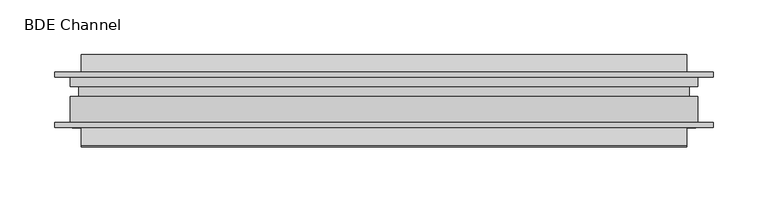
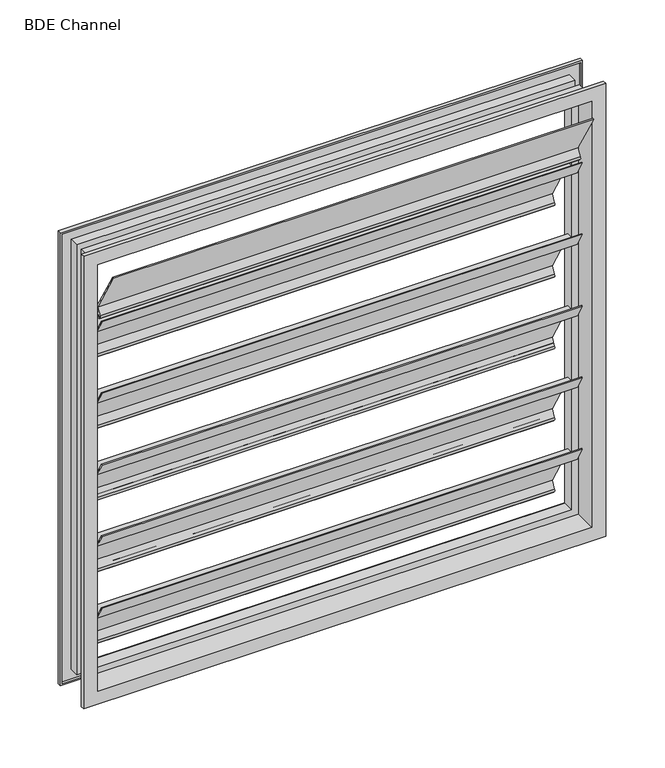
"""IFC4 building model written with IfcOpenShell, lengths in millimetres: air terminal geometry, DC_Holyoake_BackDraftDamper_BDE_Channel_14 : BDE Channel."""

from ifc_helpers import new_model, si_unit, point, frame, frame_2d, origin, place, context, project, spatial, polyline, circle_curve, trimmed, segment, composite_curve, outline, extrude, faceted_brep, source, transform, mapped, element, save


def bde_channel_63ecb905(model_context):
    return source(origin(), model_context, "Body", "SolidModel", [
        extrude(outline(composite_curve([segment(polyline([(115.85, 884.7833541), (112.8088922, 879.516001)]), True, "CONTINUOUS"), segment(trimmed(circle_curve(frame_2d((113.696125, 879.0523307)), 1.0010855), [point((112.8088922, 879.516001))], [point((113.1939638, 878.1863018))], True, "CARTESIAN"), True, "CONTINUOUS"), segment(trimmed(circle_curve(frame_2d((112.2933785, 875.22)), 3.1), [point((113.1939638, 878.1863018))], [point((111.1220582, 872.3498069))], False, "CARTESIAN"), True, "CONTINUOUS"), segment(polyline([(111.1220582, 872.3498069), (111.6510416, 873.6460231)]), True, "CONTINUOUS"), segment(trimmed(circle_curve(frame_2d((112.2933785, 875.22)), 1.7), [point((111.6510416, 873.6460231))], [point((110.7120974, 874.5958606))], True, "CARTESIAN"), True, "CONTINUOUS"), segment(polyline([(110.7120974, 874.5958606), (109.6086998, 873.67)]), True, "CONTINUOUS"), segment(trimmed(circle_curve(frame_2d((112.2933785, 875.22)), 3.1), [point((109.6086998, 873.67))], [point((109.5892674, 876.7358439))], False, "CARTESIAN"), True, "CONTINUOUS"), segment(polyline([(109.5892674, 876.7358439), (114.2334192, 884.7817623), (81.8366454, 940.8930288), (64.4006673, 940.8930288), (53.86, 959.15), (55.4765808, 959.15), (65.2089576, 942.2930288), (82.6449358, 942.2930288), (115.85, 884.7833541)]), True, "CONTINUOUS")], self_intersect=False)), frame((-151.0, 0.0, 0.0), z_axis=(1.0, 0.0, 0.0), x_axis=(0.0, 1.0, 0.0)), (0.0, 0.0, 1.0), 552.0),
        extrude(outline(composite_curve([segment(polyline([(64.35, 971.8133541), (61.3088922, 966.546001)]), True, "CONTINUOUS"), segment(trimmed(circle_curve(frame_2d((62.196125, 966.0823307)), 1.0010855), [point((61.3088922, 966.546001))], [point((61.6939638, 965.2163018))], True, "CARTESIAN"), True, "CONTINUOUS"), segment(trimmed(circle_curve(frame_2d((60.7933785, 962.25)), 3.1), [point((61.6939638, 965.2163018))], [point((59.6220582, 959.3798069))], False, "CARTESIAN"), True, "CONTINUOUS"), segment(polyline([(59.6220582, 959.3798069), (60.1510416, 960.6760231)]), True, "CONTINUOUS"), segment(trimmed(circle_curve(frame_2d((60.7933785, 962.25)), 1.7), [point((60.1510416, 960.6760231))], [point((59.2120974, 961.6258606))], True, "CARTESIAN"), True, "CONTINUOUS"), segment(polyline([(59.2120974, 961.6258606), (58.1086998, 960.7)]), True, "CONTINUOUS"), segment(trimmed(circle_curve(frame_2d((60.7933785, 962.25)), 3.1), [point((58.1086998, 960.7))], [point((58.0892674, 963.7658439))], False, "CARTESIAN"), True, "CONTINUOUS"), segment(polyline([(58.0892674, 963.7658439), (62.7334192, 971.8117623), (31.4469381, 1026.0), (33.0635935, 1026.0), (64.35, 971.8133541)]), True, "CONTINUOUS")], self_intersect=False)), frame((-151.0, 0.0, 0.0), z_axis=(1.0, 0.0, 0.0), x_axis=(0.0, 1.0, 0.0)), (0.0, 0.0, 1.0), 552.0),
        extrude(outline(composite_curve([segment(polyline([(115.85, 797.7533541), (112.8088922, 792.486001)]), True, "CONTINUOUS"), segment(trimmed(circle_curve(frame_2d((113.696125, 792.0223307)), 1.0010855), [point((112.8088922, 792.486001))], [point((113.1939638, 791.1563018))], True, "CARTESIAN"), True, "CONTINUOUS"), segment(trimmed(circle_curve(frame_2d((112.2933785, 788.19)), 3.1), [point((113.1939638, 791.1563018))], [point((111.1220582, 785.3198069))], False, "CARTESIAN"), True, "CONTINUOUS"), segment(polyline([(111.1220582, 785.3198069), (111.6510416, 786.6160231)]), True, "CONTINUOUS"), segment(trimmed(circle_curve(frame_2d((112.2933785, 788.19)), 1.7), [point((111.6510416, 786.6160231))], [point((110.7120974, 787.5658606))], True, "CARTESIAN"), True, "CONTINUOUS"), segment(polyline([(110.7120974, 787.5658606), (109.6086998, 786.64)]), True, "CONTINUOUS"), segment(trimmed(circle_curve(frame_2d((112.2933785, 788.19)), 3.1), [point((109.6086998, 786.64))], [point((109.5892674, 789.7058439))], False, "CARTESIAN"), True, "CONTINUOUS"), segment(polyline([(109.5892674, 789.7058439), (114.2334192, 797.7517623), (81.8366454, 853.8630288), (64.4006673, 853.8630288), (53.86, 872.12), (55.4765808, 872.12), (65.2089576, 855.2630288), (82.6449358, 855.2630288), (115.85, 797.7533541)]), True, "CONTINUOUS")], self_intersect=False)), frame((-151.0, 0.0, 0.0), z_axis=(1.0, 0.0, 0.0), x_axis=(0.0, 1.0, 0.0)), (0.0, 0.0, 1.0), 552.0),
        extrude(outline(composite_curve([segment(polyline([(115.85, 710.7233541), (112.8088922, 705.456001)]), True, "CONTINUOUS"), segment(trimmed(circle_curve(frame_2d((113.696125, 704.9923307)), 1.0010855), [point((112.8088922, 705.456001))], [point((113.1939638, 704.1263018))], True, "CARTESIAN"), True, "CONTINUOUS"), segment(trimmed(circle_curve(frame_2d((112.2933785, 701.16)), 3.1), [point((113.1939638, 704.1263018))], [point((111.1220582, 698.2898069))], False, "CARTESIAN"), True, "CONTINUOUS"), segment(polyline([(111.1220582, 698.2898069), (111.6510416, 699.5860231)]), True, "CONTINUOUS"), segment(trimmed(circle_curve(frame_2d((112.2933785, 701.16)), 1.7), [point((111.6510416, 699.5860231))], [point((110.7120974, 700.5358606))], True, "CARTESIAN"), True, "CONTINUOUS"), segment(polyline([(110.7120974, 700.5358606), (109.6086998, 699.61)]), True, "CONTINUOUS"), segment(trimmed(circle_curve(frame_2d((112.2933785, 701.16)), 3.1), [point((109.6086998, 699.61))], [point((109.5892674, 702.6758439))], False, "CARTESIAN"), True, "CONTINUOUS"), segment(polyline([(109.5892674, 702.6758439), (114.2334192, 710.7217623), (81.8366454, 766.8330288), (64.4006673, 766.8330288), (53.86, 785.09), (55.4765808, 785.09), (65.2089576, 768.2330288), (82.6449358, 768.2330288), (115.85, 710.7233541)]), True, "CONTINUOUS")], self_intersect=False)), frame((-151.0, 0.0, 0.0), z_axis=(1.0, 0.0, 0.0), x_axis=(0.0, 1.0, 0.0)), (0.0, 0.0, 1.0), 552.0),
        extrude(outline(composite_curve([segment(polyline([(115.85, 623.6933541), (112.8088922, 618.426001)]), True, "CONTINUOUS"), segment(trimmed(circle_curve(frame_2d((113.696125, 617.9623307)), 1.0010855), [point((112.8088922, 618.426001))], [point((113.1939638, 617.0963018))], True, "CARTESIAN"), True, "CONTINUOUS"), segment(trimmed(circle_curve(frame_2d((112.2933785, 614.13)), 3.1), [point((113.1939638, 617.0963018))], [point((111.1220582, 611.2598069))], False, "CARTESIAN"), True, "CONTINUOUS"), segment(polyline([(111.1220582, 611.2598069), (111.6510416, 612.5560231)]), True, "CONTINUOUS"), segment(trimmed(circle_curve(frame_2d((112.2933785, 614.13)), 1.7), [point((111.6510416, 612.5560231))], [point((110.7120974, 613.5058606))], True, "CARTESIAN"), True, "CONTINUOUS"), segment(polyline([(110.7120974, 613.5058606), (109.6086998, 612.58)]), True, "CONTINUOUS"), segment(trimmed(circle_curve(frame_2d((112.2933785, 614.13)), 3.1), [point((109.6086998, 612.58))], [point((109.5892674, 615.6458439))], False, "CARTESIAN"), True, "CONTINUOUS"), segment(polyline([(109.5892674, 615.6458439), (114.2334192, 623.6917623), (81.8366454, 679.8030288), (64.4006673, 679.8030288), (53.86, 698.06), (55.4765808, 698.06), (65.2089576, 681.2030288), (82.6449358, 681.2030288), (115.85, 623.6933541)]), True, "CONTINUOUS")], self_intersect=False)), frame((-151.0, 0.0, 0.0), z_axis=(1.0, 0.0, 0.0), x_axis=(0.0, 1.0, 0.0)), (0.0, 0.0, 1.0), 552.0),
        extrude(outline(composite_curve([segment(polyline([(115.85, 536.6633541), (112.8088922, 531.396001)]), True, "CONTINUOUS"), segment(trimmed(circle_curve(frame_2d((113.696125, 530.9323307)), 1.0010855), [point((112.8088922, 531.396001))], [point((113.1939638, 530.0663018))], True, "CARTESIAN"), True, "CONTINUOUS"), segment(trimmed(circle_curve(frame_2d((112.2933785, 527.1)), 3.1), [point((113.1939638, 530.0663018))], [point((111.1220582, 524.2298069))], False, "CARTESIAN"), True, "CONTINUOUS"), segment(polyline([(111.1220582, 524.2298069), (111.6510416, 525.5260231)]), True, "CONTINUOUS"), segment(trimmed(circle_curve(frame_2d((112.2933785, 527.1)), 1.7), [point((111.6510416, 525.5260231))], [point((110.7120974, 526.4758606))], True, "CARTESIAN"), True, "CONTINUOUS"), segment(polyline([(110.7120974, 526.4758606), (109.6086998, 525.55)]), True, "CONTINUOUS"), segment(trimmed(circle_curve(frame_2d((112.2933785, 527.1)), 3.1), [point((109.6086998, 525.55))], [point((109.5892674, 528.6158439))], False, "CARTESIAN"), True, "CONTINUOUS"), segment(polyline([(109.5892674, 528.6158439), (114.2334192, 536.6617623), (81.8366454, 592.7730288), (64.4006673, 592.7730288), (53.86, 611.03), (55.4765808, 611.03), (65.2089576, 594.1730288), (82.6449358, 594.1730288), (115.85, 536.6633541)]), True, "CONTINUOUS")], self_intersect=False)), frame((-151.0, 0.0, 0.0), z_axis=(1.0, 0.0, 0.0), x_axis=(0.0, 1.0, 0.0)), (0.0, 0.0, 1.0), 552.0),
        faceted_brep([(401.0, 75.75, 524.0), (401.0, 89.0, 524.0), (-151.0, 89.0, 524.0), (-151.0, 75.75, 524.0), (409.0, 49.25, 516.0), (409.0, 75.75, 516.0), (-159.0, 75.75, 516.0), (-159.0, 49.25, 516.0), (425.0, 53.85, 500.0), (425.0, 49.25, 500.0), (-175.0, 49.25, 500.0), (-175.0, 53.85, 500.0), (422.9, 51.35, 502.1), (422.9, 53.85, 502.1), (-172.9, 53.85, 502.1), (-172.9, 51.35, 502.1), (411.1, 77.85, 513.9), (411.1, 51.35, 513.9), (-161.1, 51.35, 513.9), (-161.1, 77.85, 513.9), (403.1, 86.9, 521.9), (403.1, 77.85, 521.9), (-153.1, 77.85, 521.9), (-153.1, 86.9, 521.9), (411.1, 97.9, 513.9), (411.1, 86.9, 513.9), (-161.1, 86.9, 513.9), (-161.1, 97.9, 513.9), (422.9, 95.4, 502.1), (422.9, 97.9, 502.1), (-172.9, 97.9, 502.1), (-172.9, 95.4, 502.1), (425.0, 100.0, 500.0), (425.0, 95.4, 500.0), (-175.0, 95.4, 500.0), (-175.0, 100.0, 500.0), (409.0, 89.0, 516.0), (409.0, 100.0, 516.0), (-159.0, 100.0, 516.0), (-159.0, 89.0, 516.0), (-151.0, 89.0, 1026.0), (-151.0, 75.75, 1026.0), (-159.0, 75.75, 1034.0), (-159.0, 49.25, 1034.0), (-175.0, 49.25, 1050.0), (-175.0, 53.85, 1050.0), (-172.9, 53.85, 1047.9), (-172.9, 51.35, 1047.9), (-161.1, 51.35, 1036.1), (-161.1, 77.85, 1036.1), (-153.1, 77.85, 1028.1), (-153.1, 86.9, 1028.1), (-161.1, 86.9, 1036.1), (-161.1, 97.9, 1036.1), (-172.9, 97.9, 1047.9), (-172.9, 95.4, 1047.9), (-175.0, 95.4, 1050.0), (-175.0, 100.0, 1050.0), (-159.0, 100.0, 1034.0), (-159.0, 89.0, 1034.0), (401.0, 89.0, 1026.0), (401.0, 75.75, 1026.0), (409.0, 75.75, 1034.0), (409.0, 49.25, 1034.0), (425.0, 49.25, 1050.0), (425.0, 53.85, 1050.0), (422.9, 53.85, 1047.9), (422.9, 51.35, 1047.9), (411.1, 51.35, 1036.1), (411.1, 77.85, 1036.1), (403.1, 77.85, 1028.1), (403.1, 86.9, 1028.1), (411.1, 86.9, 1036.1), (411.1, 97.9, 1036.1), (422.9, 97.9, 1047.9), (422.9, 95.4, 1047.9), (425.0, 95.4, 1050.0), (425.0, 100.0, 1050.0), (409.0, 100.0, 1034.0), (409.0, 89.0, 1034.0)], [[[0, 1, 2, 3]], [[4, 5, 6, 7]], [[8, 9, 10, 11]], [[12, 13, 14, 15]], [[16, 17, 18, 19]], [[20, 21, 22, 23]], [[24, 25, 26, 27]], [[28, 29, 30, 31]], [[32, 33, 34, 35]], [[36, 37, 38, 39]], [[3, 2, 40, 41]], [[7, 6, 42, 43]], [[11, 10, 44, 45]], [[15, 14, 46, 47]], [[19, 18, 48, 49]], [[23, 22, 50, 51]], [[27, 26, 52, 53]], [[31, 30, 54, 55]], [[35, 34, 56, 57]], [[39, 38, 58, 59]], [[41, 40, 60, 61]], [[43, 42, 62, 63]], [[45, 44, 64, 65]], [[47, 46, 66, 67]], [[49, 48, 68, 69]], [[51, 50, 70, 71]], [[53, 52, 72, 73]], [[55, 54, 74, 75]], [[57, 56, 76, 77]], [[59, 58, 78, 79]], [[39, 59, 79, 36], [1, 60, 40, 2]], [[61, 60, 1, 0]], [[5, 62, 42, 6], [3, 41, 61, 0]], [[63, 62, 5, 4]], [[9, 64, 44, 10], [7, 43, 63, 4]], [[65, 64, 9, 8]], [[11, 45, 65, 8], [13, 66, 46, 14]], [[67, 66, 13, 12]], [[15, 47, 67, 12], [17, 68, 48, 18]], [[69, 68, 17, 16]], [[19, 49, 69, 16], [21, 70, 50, 22]], [[71, 70, 21, 20]], [[25, 72, 52, 26], [23, 51, 71, 20]], [[73, 72, 25, 24]], [[29, 74, 54, 30], [27, 53, 73, 24]], [[75, 74, 29, 28]], [[33, 76, 56, 34], [31, 55, 75, 28]], [[77, 76, 33, 32]], [[35, 57, 77, 32], [37, 78, 58, 38]], [[79, 78, 37, 36]]]),
    ])


if __name__ == "__main__":
    model = new_model("IFC4")
    model_context = context("Model", 3, world=origin())
    ifc_project = project(units=[si_unit("LENGTHUNIT", "METRE", prefix="MILLI")], contexts=[model_context])
    site = spatial("IfcSite", under=ifc_project)
    building = spatial("IfcBuilding", under=site)
    placement = place(None, origin())
    bde_channel_shape = bde_channel_63ecb905(model_context)
    element("IfcAirTerminal", 1, ObjectType="DC_Holyoake_BackDraftDamper_BDE_Channel_14 : BDE Channel", at=placement, inside=building, context=model_context, shape_type="MappedRepresentation", body=[
        mapped(bde_channel_shape, transform((0.0, 0.0, 0.0), x_axis=(1.0, 0.0, 0.0), y_axis=(0.0, 1.0, 0.0), z_axis=(0.0, 0.0, 1.0))),
    ])
    save(model, "model.ifc")
